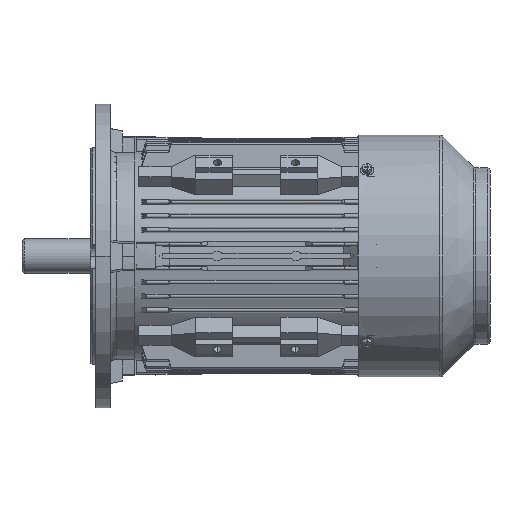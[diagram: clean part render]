
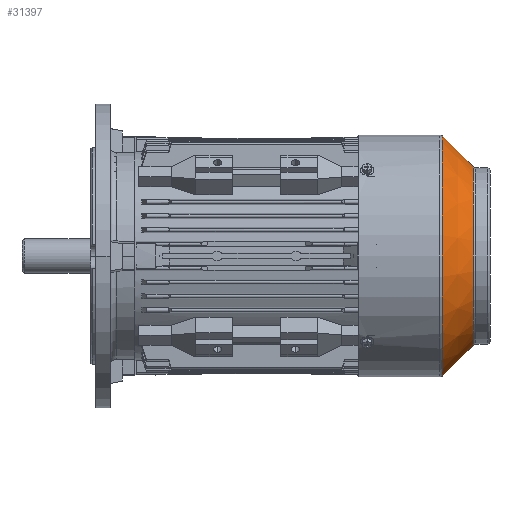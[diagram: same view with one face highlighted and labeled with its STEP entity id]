
A CAD part, front view. The second image highlights one B-rep face of the part: STEP entity #31397.
In plain terms, the highlighted conical face has half-angle 45 degrees and reference radius 73.379 mm.
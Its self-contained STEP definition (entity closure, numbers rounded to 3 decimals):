
#7952 = CONICAL_SURFACE ( 'NONE', #72202, 73.379, 0.785 ) ;
#12341 = VECTOR ( 'NONE', #76479, 1000. ) ;
#14319 = DIRECTION ( 'NONE',  ( -1., 0., 0. ) ) ;
#14776 = DIRECTION ( 'NONE',  ( -0.707, 0., -0.707 ) ) ;
#14973 = DIRECTION ( 'NONE',  ( 0., 0., 1. ) ) ;
#16753 = VERTEX_POINT ( 'NONE', #87013 ) ;
#20893 = LINE ( 'NONE', #46313, #12341 ) ;
#21303 = ORIENTED_EDGE ( 'NONE', *, *, #47873, .F. ) ;
#21693 = LINE ( 'NONE', #86809, #81599 ) ;
#23450 = CARTESIAN_POINT ( 'NONE',  ( 193.988, 12.821, -73.379 ) ) ;
#30269 = EDGE_CURVE ( 'NONE', #16753, #60354, #56889, .T. ) ;
#31397 = ADVANCED_FACE ( 'NONE', ( #87539 ), #7952, .T. ) ;
#33685 = CARTESIAN_POINT ( 'NONE',  ( 193.988, 12.821, 73.379 ) ) ;
#35050 = CARTESIAN_POINT ( 'NONE',  ( 168.745, 12.821, 0. ) ) ;
#41536 = AXIS2_PLACEMENT_3D ( 'NONE', #95863, #14319, #55634 ) ;
#46313 = CARTESIAN_POINT ( 'NONE',  ( 193.988, 12.821, 73.379 ) ) ;
#47873 = EDGE_CURVE ( 'NONE', #99964, #16753, #21693, .T. ) ;
#48416 = VERTEX_POINT ( 'NONE', #33685 ) ;
#50196 = EDGE_LOOP ( 'NONE', ( #21303, #102099, #56632, #91339 ) ) ;
#50958 = EDGE_CURVE ( 'NONE', #48416, #60354, #20893, .T. ) ;
#53671 = DIRECTION ( 'NONE',  ( -1., 0., 0. ) ) ;
#55634 = DIRECTION ( 'NONE',  ( 0., 0., 1. ) ) ;
#56184 = EDGE_CURVE ( 'NONE', #99964, #48416, #97282, .T. ) ;
#56632 = ORIENTED_EDGE ( 'NONE', *, *, #50958, .T. ) ;
#56889 = CIRCLE ( 'NONE', #100780, 98.621 ) ;
#60354 = VERTEX_POINT ( 'NONE', #89895 ) ;
#67326 = DIRECTION ( 'NONE',  ( 0., 0., 1. ) ) ;
#72202 = AXIS2_PLACEMENT_3D ( 'NONE', #94410, #53671, #14973 ) ;
#76479 = DIRECTION ( 'NONE',  ( -0.707, 0., 0.707 ) ) ;
#81599 = VECTOR ( 'NONE', #14776, 1000. ) ;
#86809 = CARTESIAN_POINT ( 'NONE',  ( 193.988, 12.821, -73.379 ) ) ;
#87013 = CARTESIAN_POINT ( 'NONE',  ( 168.745, 12.821, -98.621 ) ) ;
#87539 = FACE_OUTER_BOUND ( 'NONE', #50196, .T. ) ;
#89895 = CARTESIAN_POINT ( 'NONE',  ( 168.745, 12.821, 98.621 ) ) ;
#91339 = ORIENTED_EDGE ( 'NONE', *, *, #30269, .F. ) ;
#92716 = DIRECTION ( 'NONE',  ( -1., 0., 0. ) ) ;
#94410 = CARTESIAN_POINT ( 'NONE',  ( 193.988, 12.821, 0. ) ) ;
#95863 = CARTESIAN_POINT ( 'NONE',  ( 193.988, 12.821, 0. ) ) ;
#97282 = CIRCLE ( 'NONE', #41536, 73.379 ) ;
#99964 = VERTEX_POINT ( 'NONE', #23450 ) ;
#100780 = AXIS2_PLACEMENT_3D ( 'NONE', #35050, #92716, #67326 ) ;
#102099 = ORIENTED_EDGE ( 'NONE', *, *, #56184, .T. ) ;
